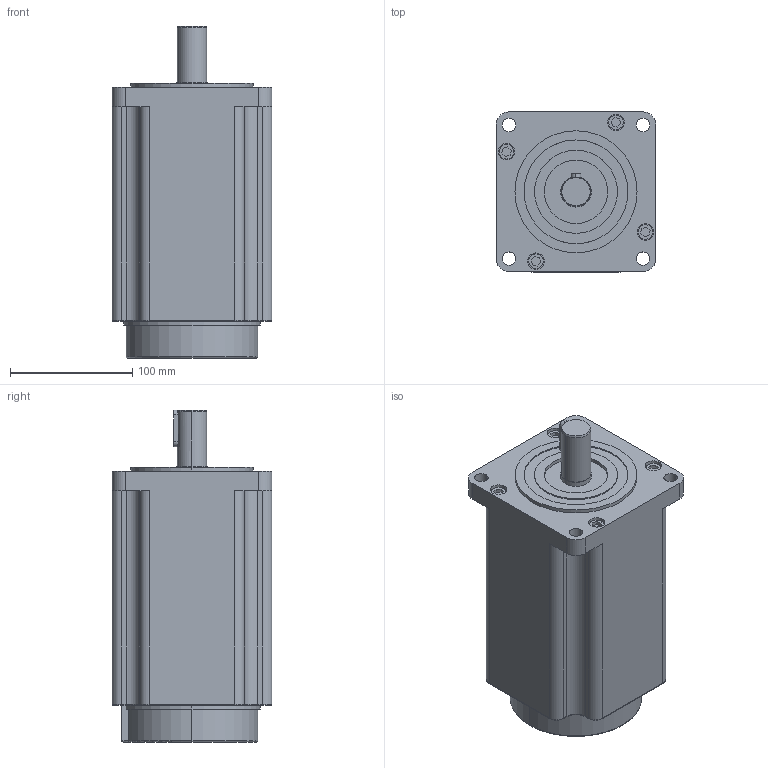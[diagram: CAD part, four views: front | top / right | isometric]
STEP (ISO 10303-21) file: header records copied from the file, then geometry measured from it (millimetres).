
FILE_DESCRIPTION (( 'STEP AP214' ), '1' );
FILE_NAME ('FHB31322祭輛萇儂誘欶.STEP', '2021-01-29T01:56:26', ( 'hzmg' ), ( '' ), 'SwSTEP 2.0', 'SolidWorks 2016', '' );
FILE_SCHEMA (( 'AUTOMOTIVE_DESIGN' ));
Length unit declared in the file: millimetre
Products named in the file (1): FHB31322祭輛萇儂誘欶
Bounding box: 131 x 131 x 272 mm (x, y, z)
Volume: 3246645.8 mm3; surface area: 145389.8 mm2
Topology: 1 solids, 1 shells, 163 faces, 392 edges, 250 vertices
Faces by surface type: cylinder 77, plane 68, torus 15, cone 3
Entity records: 4869 total; most frequent: CARTESIAN_POINT 888, DIRECTION 875, ORIENTED_EDGE 784, EDGE_CURVE 392, AXIS2_PLACEMENT_3D 329, VERTEX_POINT 250, LINE 217, VECTOR 217
